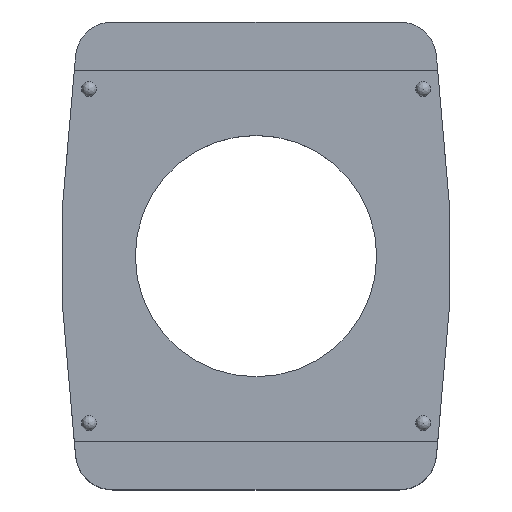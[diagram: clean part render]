
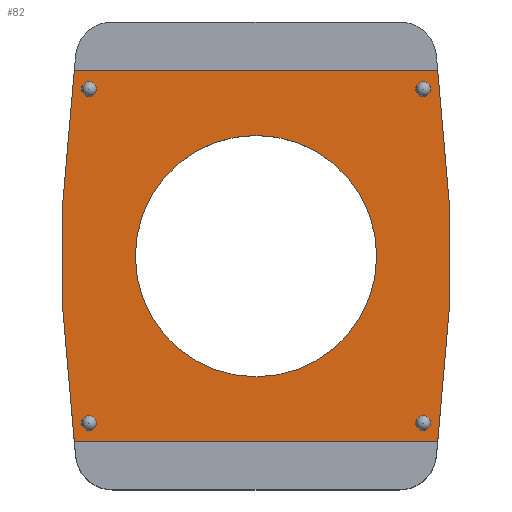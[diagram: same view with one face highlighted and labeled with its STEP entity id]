
A CAD part, top view. The second image highlights one B-rep face of the part: STEP entity #82.
In plain terms, the highlighted free-form (B-spline) face has degree [1, 1] with [2, 2] control points.
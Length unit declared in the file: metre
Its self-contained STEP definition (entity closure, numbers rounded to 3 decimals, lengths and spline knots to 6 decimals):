
#82 = ADVANCED_FACE( '', ( #117, #118, #119, #120, #121, #122 ), #123, .T. );
#117 = FACE_BOUND( '', #291, .T. );
#118 = FACE_BOUND( '', #292, .T. );
#119 = FACE_BOUND( '', #293, .T. );
#120 = FACE_BOUND( '', #294, .T. );
#121 = FACE_BOUND( '', #295, .T. );
#122 = FACE_OUTER_BOUND( '', #296, .T. );
#123 = B_SPLINE_SURFACE_WITH_KNOTS( '', 1, 1, ( ( #297, #298 ), ( #299, #300 ) ), .UNSPECIFIED., .F., .F., .F., ( 2, 2 ), ( 2, 2 ), ( 0., 1. ), ( 0., 1. ), .UNSPECIFIED. );
#291 = EDGE_LOOP( '', ( #455 ) );
#292 = EDGE_LOOP( '', ( #456 ) );
#293 = EDGE_LOOP( '', ( #457 ) );
#294 = EDGE_LOOP( '', ( #458 ) );
#295 = EDGE_LOOP( '', ( #459 ) );
#296 = EDGE_LOOP( '', ( #460, #461, #462, #463, #464, #465, #466, #467 ) );
#297 = CARTESIAN_POINT( '', ( 17.820861, 1.292953, 11.325735 ) );
#298 = CARTESIAN_POINT( '', ( 17.820861, 1.306813, 11.325735 ) );
#299 = CARTESIAN_POINT( '', ( 17.832301, 1.292953, 11.325735 ) );
#300 = CARTESIAN_POINT( '', ( 17.832301, 1.306813, 11.325735 ) );
#455 = ORIENTED_EDGE( '', *, *, #566, .T. );
#456 = ORIENTED_EDGE( '', *, *, #549, .F. );
#457 = ORIENTED_EDGE( '', *, *, #561, .T. );
#458 = ORIENTED_EDGE( '', *, *, #553, .T. );
#459 = ORIENTED_EDGE( '', *, *, #551, .T. );
#460 = ORIENTED_EDGE( '', *, *, #563, .T. );
#461 = ORIENTED_EDGE( '', *, *, #557, .T. );
#462 = ORIENTED_EDGE( '', *, *, #567, .T. );
#463 = ORIENTED_EDGE( '', *, *, #568, .T. );
#464 = ORIENTED_EDGE( '', *, *, #569, .T. );
#465 = ORIENTED_EDGE( '', *, *, #570, .T. );
#466 = ORIENTED_EDGE( '', *, *, #571, .T. );
#467 = ORIENTED_EDGE( '', *, *, #572, .T. );
#549 = EDGE_CURVE( '', #611, #611, #612, .T. );
#551 = EDGE_CURVE( '', #613, #613, #614, .F. );
#553 = EDGE_CURVE( '', #615, #615, #616, .F. );
#557 = EDGE_CURVE( '', #622, #620, #623, .T. );
#561 = EDGE_CURVE( '', #629, #629, #630, .F. );
#563 = EDGE_CURVE( '', #631, #622, #632, .T. );
#566 = EDGE_CURVE( '', #636, #636, #637, .F. );
#567 = EDGE_CURVE( '', #620, #638, #639, .T. );
#568 = EDGE_CURVE( '', #638, #640, #641, .T. );
#569 = EDGE_CURVE( '', #640, #642, #643, .T. );
#570 = EDGE_CURVE( '', #642, #644, #645, .T. );
#571 = EDGE_CURVE( '', #644, #646, #647, .T. );
#572 = EDGE_CURVE( '', #646, #631, #648, .T. );
#611 = VERTEX_POINT( '', #707 );
#612 = CIRCLE( '', #708, 0.0002 );
#613 = VERTEX_POINT( '', #709 );
#614 = CIRCLE( '', #710, 0.0002 );
#615 = VERTEX_POINT( '', #711 );
#616 = CIRCLE( '', #712, 0.0002 );
#620 = VERTEX_POINT( '', #719 );
#622 = VERTEX_POINT( '', #722 );
#623 = B_SPLINE_CURVE_WITH_KNOTS( '', 3, ( #723, #724, #725, #726 ), .UNSPECIFIED., .F., .F., ( 4, 4 ), ( 1.29545, 13.006681 ), .UNSPECIFIED. );
#629 = VERTEX_POINT( '', #735 );
#630 = CIRCLE( '', #736, 0.0002 );
#631 = VERTEX_POINT( '', #737 );
#632 = LINE( '', #738, #739 );
#636 = VERTEX_POINT( '', #745 );
#637 = CIRCLE( '', #746, 0.00325 );
#638 = VERTEX_POINT( '', #747 );
#639 = LINE( '', #748, #749 );
#640 = VERTEX_POINT( '', #750 );
#641 = B_SPLINE_CURVE_WITH_KNOTS( '', 3, ( #751, #752, #753, #754 ), .UNSPECIFIED., .F., .F., ( 4, 4 ), ( 0., 11.711232 ), .UNSPECIFIED. );
#642 = VERTEX_POINT( '', #755 );
#643 = LINE( '', #756, #757 );
#644 = VERTEX_POINT( '', #758 );
#645 = B_SPLINE_CURVE_WITH_KNOTS( '', 3, ( #759, #760, #761, #762 ), .UNSPECIFIED., .F., .F., ( 4, 4 ), ( 1.29545, 13.006681 ), .UNSPECIFIED. );
#646 = VERTEX_POINT( '', #763 );
#647 = LINE( '', #764, #765 );
#648 = B_SPLINE_CURVE_WITH_KNOTS( '', 3, ( #766, #767, #768, #769 ), .UNSPECIFIED., .F., .F., ( 4, 4 ), ( 0., 11.711231 ), .UNSPECIFIED. );
#707 = CARTESIAN_POINT( '', ( 17.822081, 1.304583, 11.325735 ) );
#708 = AXIS2_PLACEMENT_3D( '', #845, #846, #847 );
#709 = CARTESIAN_POINT( '', ( 17.831081, 1.304583, 11.325735 ) );
#710 = AXIS2_PLACEMENT_3D( '', #848, #849, #850 );
#711 = CARTESIAN_POINT( '', ( 17.831081, 1.295583, 11.325735 ) );
#712 = AXIS2_PLACEMENT_3D( '', #851, #852, #853 );
#719 = CARTESIAN_POINT( '', ( 17.831475, 1.304883, 11.325735 ) );
#722 = CARTESIAN_POINT( '', ( 17.831781, 1.301383, 11.325735 ) );
#723 = CARTESIAN_POINT( '', ( 17.831781, 1.301383, 11.325735 ) );
#724 = CARTESIAN_POINT( '', ( 17.831679, 1.30255, 11.325735 ) );
#725 = CARTESIAN_POINT( '', ( 17.831577, 1.303717, 11.325735 ) );
#726 = CARTESIAN_POINT( '', ( 17.831475, 1.304883, 11.325735 ) );
#735 = CARTESIAN_POINT( '', ( 17.822081, 1.295583, 11.325735 ) );
#736 = AXIS2_PLACEMENT_3D( '', #858, #859, #860 );
#737 = CARTESIAN_POINT( '', ( 17.831781, 1.298383, 11.325735 ) );
#738 = CARTESIAN_POINT( '', ( 17.831781, 1.299883, 11.325735 ) );
#739 = VECTOR( '', #861, 1. );
#745 = CARTESIAN_POINT( '', ( 17.829831, 1.299883, 11.325735 ) );
#746 = AXIS2_PLACEMENT_3D( '', #864, #865, #866 );
#747 = CARTESIAN_POINT( '', ( 17.821688, 1.304883, 11.325735 ) );
#748 = CARTESIAN_POINT( '', ( 17.826581, 1.304883, 11.325735 ) );
#749 = VECTOR( '', #867, 1. );
#750 = CARTESIAN_POINT( '', ( 17.821381, 1.301383, 11.325735 ) );
#751 = CARTESIAN_POINT( '', ( 17.821688, 1.304883, 11.325735 ) );
#752 = CARTESIAN_POINT( '', ( 17.821586, 1.303717, 11.325735 ) );
#753 = CARTESIAN_POINT( '', ( 17.821483, 1.30255, 11.325735 ) );
#754 = CARTESIAN_POINT( '', ( 17.821381, 1.301383, 11.325735 ) );
#755 = CARTESIAN_POINT( '', ( 17.821381, 1.298383, 11.325735 ) );
#756 = CARTESIAN_POINT( '', ( 17.821381, 1.299883, 11.325735 ) );
#757 = VECTOR( '', #868, 1. );
#758 = CARTESIAN_POINT( '', ( 17.821688, 1.294883, 11.325735 ) );
#759 = CARTESIAN_POINT( '', ( 17.821381, 1.298383, 11.325735 ) );
#760 = CARTESIAN_POINT( '', ( 17.821483, 1.297217, 11.325735 ) );
#761 = CARTESIAN_POINT( '', ( 17.821586, 1.29605, 11.325735 ) );
#762 = CARTESIAN_POINT( '', ( 17.821688, 1.294883, 11.325735 ) );
#763 = CARTESIAN_POINT( '', ( 17.831475, 1.294883, 11.325735 ) );
#764 = CARTESIAN_POINT( '', ( 17.826581, 1.294883, 11.325735 ) );
#765 = VECTOR( '', #869, 1. );
#766 = CARTESIAN_POINT( '', ( 17.831475, 1.294883, 11.325735 ) );
#767 = CARTESIAN_POINT( '', ( 17.831577, 1.29605, 11.325735 ) );
#768 = CARTESIAN_POINT( '', ( 17.831679, 1.297217, 11.325735 ) );
#769 = CARTESIAN_POINT( '', ( 17.831781, 1.298383, 11.325735 ) );
#845 = CARTESIAN_POINT( '', ( 17.822081, 1.304383, 11.325735 ) );
#846 = DIRECTION( '', ( 0., 0., 1. ) );
#847 = DIRECTION( '', ( 1., 0., 0. ) );
#848 = CARTESIAN_POINT( '', ( 17.831081, 1.304383, 11.325735 ) );
#849 = DIRECTION( '', ( 0., 0., 1. ) );
#850 = DIRECTION( '', ( 1., 0., 0. ) );
#851 = CARTESIAN_POINT( '', ( 17.831081, 1.295383, 11.325735 ) );
#852 = DIRECTION( '', ( 0., 0., 1. ) );
#853 = DIRECTION( '', ( 1., 0., 0. ) );
#858 = CARTESIAN_POINT( '', ( 17.822081, 1.295383, 11.325735 ) );
#859 = DIRECTION( '', ( 0., 0., 1. ) );
#860 = DIRECTION( '', ( 1., 0., 0. ) );
#861 = DIRECTION( '', ( 0., 1., 0. ) );
#864 = CARTESIAN_POINT( '', ( 17.826581, 1.299883, 11.325735 ) );
#865 = DIRECTION( '', ( 0., 0., 1. ) );
#866 = DIRECTION( '', ( 0., -1., 0. ) );
#867 = DIRECTION( '', ( -1., 0., 0. ) );
#868 = DIRECTION( '', ( 0., -1., 0. ) );
#869 = DIRECTION( '', ( 1., 0., 0. ) );
